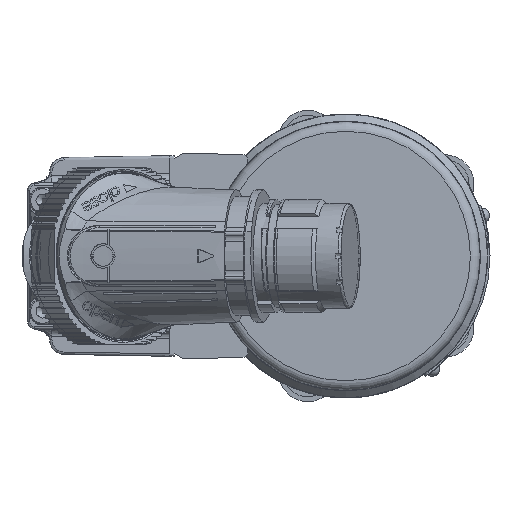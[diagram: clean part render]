
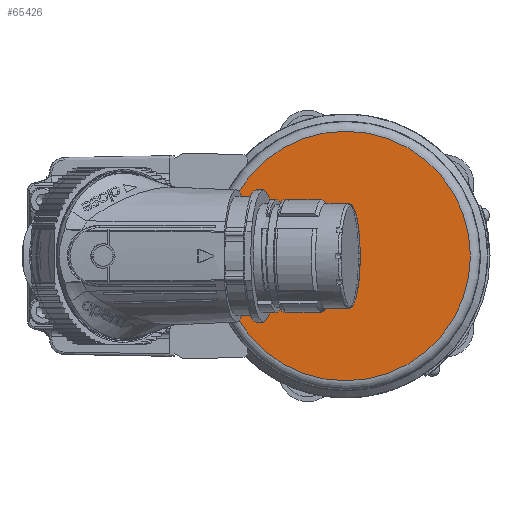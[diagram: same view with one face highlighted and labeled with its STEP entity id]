
A CAD part, left-side view. The second image highlights one B-rep face of the part: STEP entity #65426.
In plain terms, the highlighted planar face has unit normal (-1, 0, 0).
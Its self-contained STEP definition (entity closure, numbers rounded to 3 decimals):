
#482 = FACE_OUTER_BOUND ( 'NONE', #2591, .T. ) ;
#1006 = ORIENTED_EDGE ( 'NONE', *, *, #10931, .T. ) ;
#1808 = DIRECTION ( 'NONE',  ( 0., 0., 1. ) ) ;
#2591 = EDGE_LOOP ( 'NONE', ( #1006 ) ) ;
#3210 = CIRCLE ( 'NONE', #76170, 25.5 ) ;
#9721 = DIRECTION ( 'NONE',  ( 0., 0., 1. ) ) ;
#10931 = EDGE_CURVE ( 'NONE', #74573, #74573, #3210, .T. ) ;
#11455 = CARTESIAN_POINT ( 'NONE',  ( -371., 0., 0. ) ) ;
#15883 = CARTESIAN_POINT ( 'NONE',  ( -371., 0., 25.5 ) ) ;
#21521 = AXIS2_PLACEMENT_3D ( 'NONE', #21994, #49295, #1808 ) ;
#21994 = CARTESIAN_POINT ( 'NONE',  ( -371., 0., 0. ) ) ;
#37015 = DIRECTION ( 'NONE',  ( -1., 0., 0. ) ) ;
#49295 = DIRECTION ( 'NONE',  ( -1., 0., 0. ) ) ;
#65426 = ADVANCED_FACE ( 'NONE', ( #482 ), #83774, .T. ) ;
#74573 = VERTEX_POINT ( 'NONE', #15883 ) ;
#76170 = AXIS2_PLACEMENT_3D ( 'NONE', #11455, #37015, #9721 ) ;
#83774 = PLANE ( 'NONE',  #21521 ) ;
